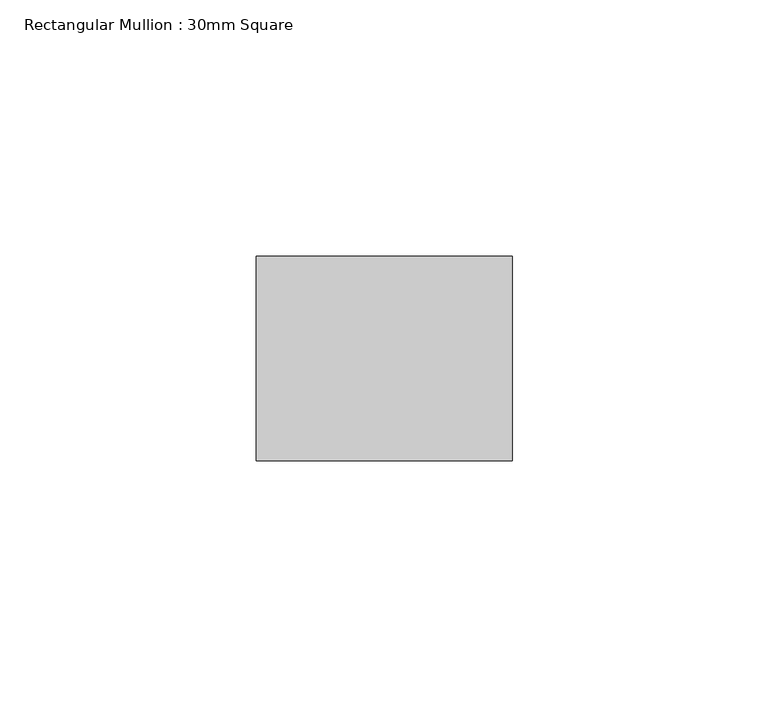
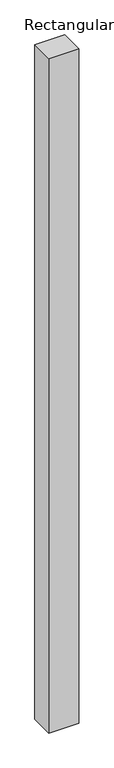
"""IFC4 building model written with IfcOpenShell, lengths in millimetres: member geometry, Rectangular Mullion : 30mm Square."""

from ifc_helpers import new_model, si_unit, frame, origin, place, context, project, spatial, polyline, outline, extrude, source, transform, mapped, element, save


def rectangular_mullion_30mm_square_bbc1a294(model_context):
    return source(origin(), model_context, "Body", "SweptSolid", [
        extrude(outline(polyline([(25.0, 20.0), (25.0, -20.0), (-25.0, -20.0), (-25.0, 20.0), (25.0, 20.0)])), frame((0.0, 0.0, -1190.0), z_axis=(0.0, 0.0, 1.0), x_axis=(1.0, 0.0, 0.0)), (0.0, 0.0, 1.0), 1190.0),
    ])


if __name__ == "__main__":
    model = new_model("IFC4")
    model_context = context("Model", 3, world=origin())
    ifc_project = project(units=[si_unit("LENGTHUNIT", "METRE", prefix="MILLI")], contexts=[model_context])
    site = spatial("IfcSite", under=ifc_project)
    building = spatial("IfcBuilding", under=site)
    placement = place(None, origin())
    rectangular_mullion_30mm_square_shape = rectangular_mullion_30mm_square_bbc1a294(model_context)
    element("IfcMember", 1, ObjectType="Rectangular Mullion : 30mm Square", at=placement, inside=building, context=model_context, shape_type="MappedRepresentation", body=[
        mapped(rectangular_mullion_30mm_square_shape, transform((0.0, 0.0, 0.0), x_axis=(1.0, 0.0, 0.0), y_axis=(0.0, 1.0, 0.0), z_axis=(0.0, 0.0, 1.0))),
    ])
    save(model, "model.ifc")
